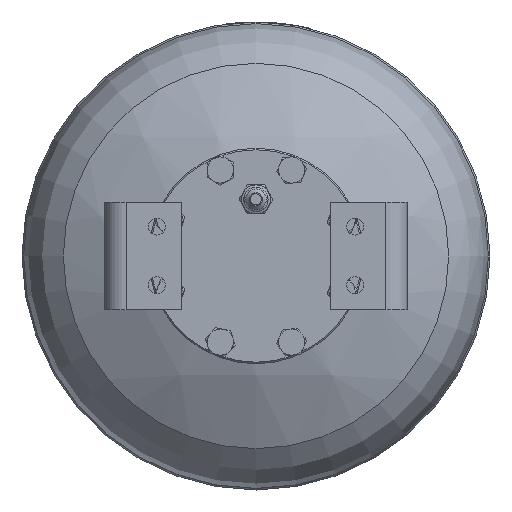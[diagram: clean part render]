
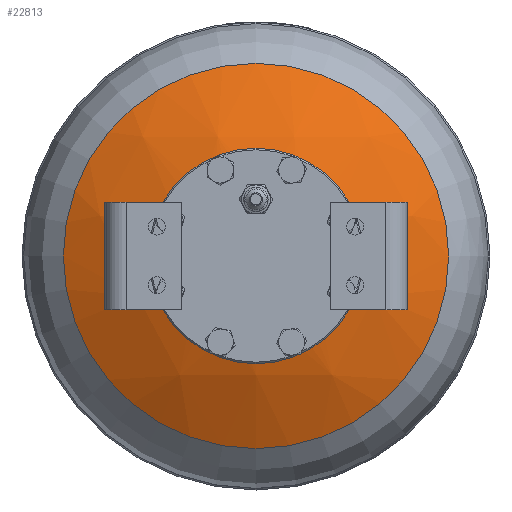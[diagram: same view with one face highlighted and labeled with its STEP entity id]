
A CAD part, front view. The second image highlights one B-rep face of the part: STEP entity #22813.
In plain terms, the highlighted spherical face has radius 244 mm.
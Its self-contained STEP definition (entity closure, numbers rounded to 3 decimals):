
#23=SPHERICAL_SURFACE('',#24516,244.);
#1197=FACE_BOUND('',#5162,.T.);
#3717=FACE_OUTER_BOUND('',#5161,.T.);
#5161=EDGE_LOOP('',(#20139));
#5162=EDGE_LOOP('',(#20140));
#8943=CIRCLE('',#24411,54.396);
#9002=CIRCLE('',#24517,125.194);
#10936=VERTEX_POINT('',#45674);
#11053=VERTEX_POINT('',#46087);
#14038=EDGE_CURVE('',#10936,#10936,#8943,.T.);
#14191=EDGE_CURVE('',#11053,#11053,#9002,.T.);
#20139=ORIENTED_EDGE('',*,*,#14191,.F.);
#20140=ORIENTED_EDGE('',*,*,#14038,.T.);
#22813=ADVANCED_FACE('',(#3717,#1197),#23,.T.);
#24411=AXIS2_PLACEMENT_3D('',#45675,#28836,#28837);
#24516=AXIS2_PLACEMENT_3D('',#46086,#29092,#29093);
#24517=AXIS2_PLACEMENT_3D('',#46088,#29094,#29095);
#28836=DIRECTION('center_axis',(0.,1.,0.));
#28837=DIRECTION('ref_axis',(0.,0.,1.));
#29092=DIRECTION('center_axis',(0.,0.,
1.));
#29093=DIRECTION('ref_axis',(-1.,0.,0.));
#29094=DIRECTION('center_axis',(0.,1.,0.));
#29095=DIRECTION('ref_axis',(1.,0.,0.));
#45674=CARTESIAN_POINT('',(0.,-154.059,-54.396));
#45675=CARTESIAN_POINT('Origin',(0.,-154.059,0.));
#46086=CARTESIAN_POINT('Origin',(0.,83.8,
0.));
#46087=CARTESIAN_POINT('',(125.194,-125.634,0.));
#46088=CARTESIAN_POINT('Origin',(0.,-125.634,
0.));
